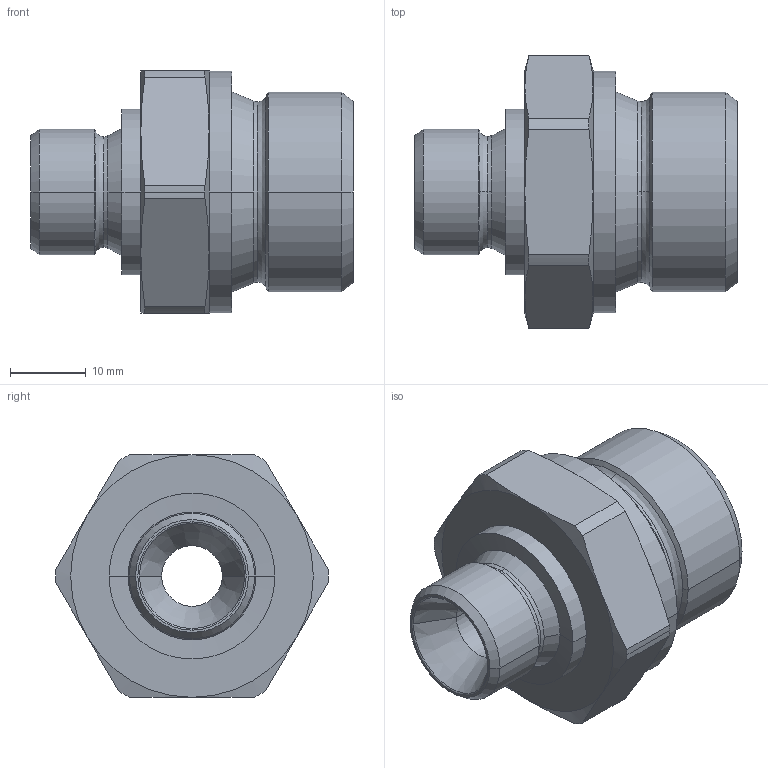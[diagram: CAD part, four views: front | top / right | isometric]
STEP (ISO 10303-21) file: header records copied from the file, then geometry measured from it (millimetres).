
FILE_DESCRIPTION((''),'2;1');
FILE_NAME('300510.stp','2006-09-11T08:10:06',(''),(''),'AutoCAD STEP 2000i','AutoCAD 2000i',', , ');
FILE_SCHEMA(('CONFIG_CONTROL_DESIGN'));
Length unit declared in the file: millimetre
Products named in the file (2): 300510.0; CHIAVE SMUSSATA#0
Assembly tree (1 placements, depth 2):
  300510.0
    CHIAVE SMUSSATA#0
Bounding box: 42.5 x 36 x 32 mm (x, y, z)
Volume: 14904.8 mm3; surface area: 6570.4 mm2
Topology: 1 solids, 1 shells, 76 faces, 178 edges, 106 vertices
Faces by surface type: cone 34, cylinder 20, plane 10, bspline 8, torus 4
Entity records: 2593 total; most frequent: CARTESIAN_POINT 762, DIRECTION 400, ORIENTED_EDGE 356, EDGE_CURVE 178, AXIS2_PLACEMENT_3D 176, VERTEX_POINT 106, CIRCLE 106, EDGE_LOOP 80
